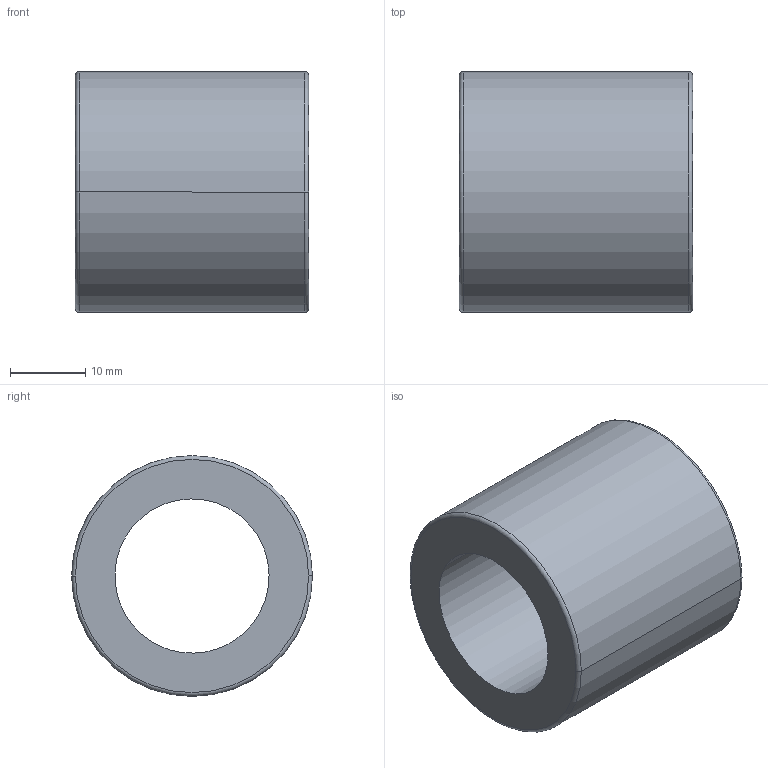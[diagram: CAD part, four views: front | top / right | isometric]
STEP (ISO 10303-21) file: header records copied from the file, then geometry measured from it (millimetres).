
FILE_DESCRIPTION(('CATIA V5 STEP Exchange'),'2;1');
FILE_NAME('C:\Users\aa\Documents\이댈\TM\STM\STM20.stp','2020-03-24T09:39:19+00:00',('none'),('none'),'CATIA Version 5 Release 20 SP 7 (IN-10)','CATIA V5 STEP AP203','none');
FILE_SCHEMA(('CONFIG_CONTROL_DESIGN'));
Length unit declared in the file: millimetre
Products named in the file (1): STM20
Bounding box: 31 x 32 x 32 mm (x, y, z)
Volume: 14689 mm3; surface area: 6017.9 mm2
Topology: 1 solids, 1 shells, 10 faces, 20 edges, 12 vertices
Faces by surface type: cylinder 4, torus 4, plane 2
Entity records: 322 total; most frequent: CARTESIAN_POINT 71, ORIENTED_EDGE 40, DIRECTION 38, AXIS2_PLACEMENT_3D 25, EDGE_CURVE 20, CIRCLE 14, EDGE_LOOP 12, VERTEX_POINT 12
